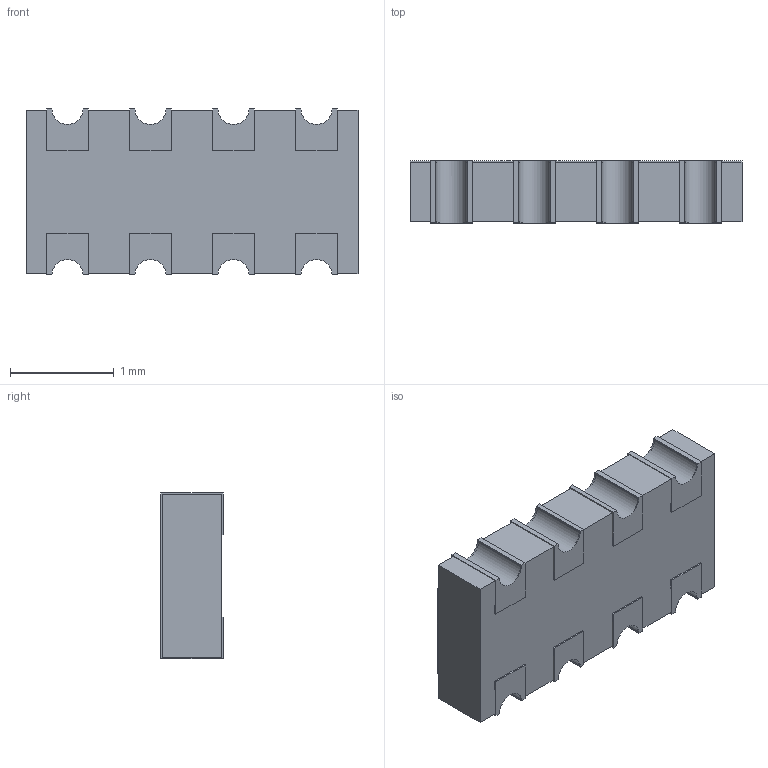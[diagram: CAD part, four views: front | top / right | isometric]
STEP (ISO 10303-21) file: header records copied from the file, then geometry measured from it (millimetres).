
FILE_DESCRIPTION(/* description */ (''),/* implementation_level */ '2;1');
FILE_NAME(/* name */ 'C:\Users\mulla\Documents\Work\SEI Models\Inventor Files\RACF\RACF164D_stp.stp',/* time_stamp */ '2019-08-03T16:38:31-04:00',/* author */ ('mulla'),/* organization */ (''),/* preprocessor_version */ 'ST-DEVELOPER v16.1',/* originating_system */ 'Autodesk Inventor 2016',/* authorisation */ '');
FILE_SCHEMA (('AUTOMOTIVE_DESIGN { 1 0 10303 214 3 1 1 }'));
Length unit declared in the file: millimetre
Products named in the file (1): RACF164D
Bounding box: 3.2 x 0.6 x 1.6 mm (x, y, z)
Surface area: 31.8 mm2
Topology: 10 solids, 10 shells, 108 faces, 264 edges, 176 vertices
Faces by surface type: plane 92, cylinder 16
Entity records: 3268 total; most frequent: CARTESIAN_POINT 549, ORIENTED_EDGE 528, DIRECTION 514, EDGE_CURVE 264, LINE 232, VECTOR 232, VERTEX_POINT 176, AXIS2_PLACEMENT_3D 141
